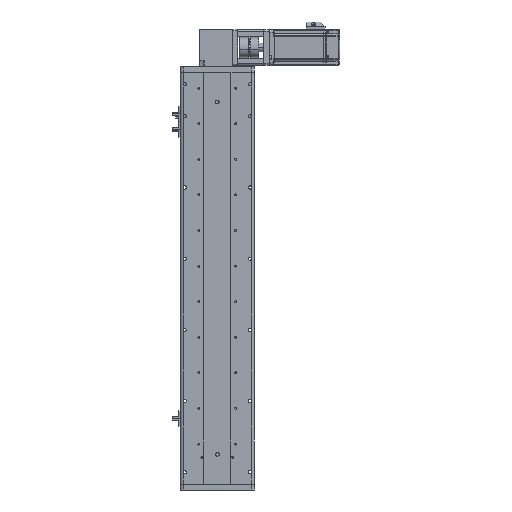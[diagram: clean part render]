
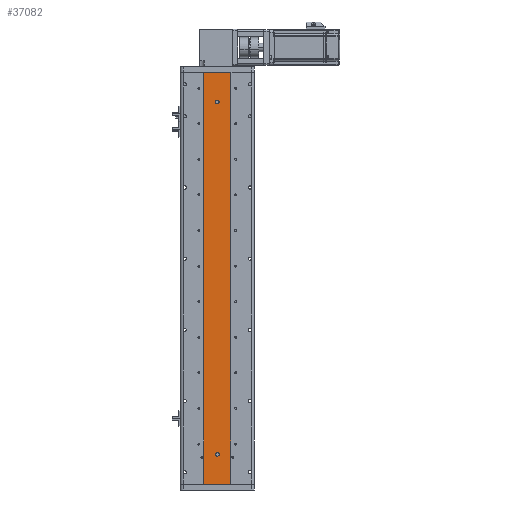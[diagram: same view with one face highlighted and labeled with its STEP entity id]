
A CAD part, front view. The second image highlights one B-rep face of the part: STEP entity #37082.
In plain terms, the highlighted planar face has unit normal (0, -1, 0).
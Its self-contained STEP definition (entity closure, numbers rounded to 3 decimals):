
#694 = EDGE_LOOP ( 'NONE', ( #44101, #1448 ) ) ;
#1252 = DIRECTION ( 'NONE',  ( 0., 0., -1. ) ) ;
#1448 = ORIENTED_EDGE ( 'NONE', *, *, #59124, .F. ) ;
#2985 = DIRECTION ( 'NONE',  ( 0., 0., -1. ) ) ;
#3689 = EDGE_CURVE ( 'NONE', #32554, #52315, #51144, .T. ) ;
#3798 = DIRECTION ( 'NONE',  ( 0., 0., -1. ) ) ;
#5442 = EDGE_CURVE ( 'NONE', #20981, #9991, #10733, .T. ) ;
#5601 = CIRCLE ( 'NONE', #48080, 3. ) ;
#5636 = CARTESIAN_POINT ( 'NONE',  ( 23., 1., -347. ) ) ;
#6363 = CIRCLE ( 'NONE', #52671, 3. ) ;
#6595 = DIRECTION ( 'NONE',  ( 1., 0., 0. ) ) ;
#8202 = ORIENTED_EDGE ( 'NONE', *, *, #34191, .F. ) ;
#8335 = CARTESIAN_POINT ( 'NONE',  ( 0., 1., 294. ) ) ;
#8986 = ORIENTED_EDGE ( 'NONE', *, *, #31094, .T. ) ;
#9991 = VERTEX_POINT ( 'NONE', #5636 ) ;
#10733 = LINE ( 'NONE', #55951, #46338 ) ;
#11061 = CARTESIAN_POINT ( 'NONE',  ( -23., 1., 347. ) ) ;
#11661 = CIRCLE ( 'NONE', #49190, 3. ) ;
#12085 = DIRECTION ( 'NONE',  ( 0., -1., 0. ) ) ;
#15346 = ORIENTED_EDGE ( 'NONE', *, *, #19593, .F. ) ;
#15576 = VECTOR ( 'NONE', #1252, 1000. ) ;
#15984 = CARTESIAN_POINT ( 'NONE',  ( 23., 1., -347. ) ) ;
#16329 = VERTEX_POINT ( 'NONE', #30361 ) ;
#16677 = CARTESIAN_POINT ( 'NONE',  ( 23., 1., 347.001 ) ) ;
#18518 = FACE_BOUND ( 'NONE', #56697, .T. ) ;
#19329 = CARTESIAN_POINT ( 'NONE',  ( 0., 1., 297. ) ) ;
#19593 = EDGE_CURVE ( 'NONE', #47584, #44645, #6363, .T. ) ;
#20981 = VERTEX_POINT ( 'NONE', #53626 ) ;
#21351 = PLANE ( 'NONE',  #40599 ) ;
#22873 = FACE_OUTER_BOUND ( 'NONE', #49467, .T. ) ;
#22931 = AXIS2_PLACEMENT_3D ( 'NONE', #19329, #51784, #24009 ) ;
#23420 = CARTESIAN_POINT ( 'NONE',  ( 0., 1., -300. ) ) ;
#24009 = DIRECTION ( 'NONE',  ( 0., 0., -1. ) ) ;
#26040 = EDGE_CURVE ( 'NONE', #30125, #16329, #11661, .T. ) ;
#28148 = DIRECTION ( 'NONE',  ( 0., 0., -1. ) ) ;
#29160 = CARTESIAN_POINT ( 'NONE',  ( -23., 1., 347.001 ) ) ;
#29893 = CIRCLE ( 'NONE', #22931, 3. ) ;
#30125 = VERTEX_POINT ( 'NONE', #8335 ) ;
#30361 = CARTESIAN_POINT ( 'NONE',  ( 0., 1., 300. ) ) ;
#30837 = DIRECTION ( 'NONE',  ( 0., -1., 0. ) ) ;
#31094 = EDGE_CURVE ( 'NONE', #52315, #9991, #45207, .T. ) ;
#31410 = VECTOR ( 'NONE', #34614, 1000. ) ;
#31664 = DIRECTION ( 'NONE',  ( 0., -1., 0. ) ) ;
#32554 = VERTEX_POINT ( 'NONE', #11061 ) ;
#34191 = EDGE_CURVE ( 'NONE', #32554, #20981, #37112, .T. ) ;
#34411 = CARTESIAN_POINT ( 'NONE',  ( 23., 1., 347. ) ) ;
#34614 = DIRECTION ( 'NONE',  ( 1., 0., 0. ) ) ;
#35095 = DIRECTION ( 'NONE',  ( 0., 1., 0. ) ) ;
#37082 = ADVANCED_FACE ( 'NONE', ( #55535, #18518, #22873 ), #21351, .F. ) ;
#37112 = LINE ( 'NONE', #34411, #47992 ) ;
#39871 = CARTESIAN_POINT ( 'NONE',  ( 0., 1., -297. ) ) ;
#40599 = AXIS2_PLACEMENT_3D ( 'NONE', #16677, #35095, #53808 ) ;
#44101 = ORIENTED_EDGE ( 'NONE', *, *, #26040, .F. ) ;
#44539 = DIRECTION ( 'NONE',  ( 0., 0., -1. ) ) ;
#44645 = VERTEX_POINT ( 'NONE', #48059 ) ;
#45207 = LINE ( 'NONE', #15984, #31410 ) ;
#46338 = VECTOR ( 'NONE', #28148, 1000. ) ;
#47584 = VERTEX_POINT ( 'NONE', #23420 ) ;
#47992 = VECTOR ( 'NONE', #6595, 1000. ) ;
#48059 = CARTESIAN_POINT ( 'NONE',  ( 0., 1., -294. ) ) ;
#48080 = AXIS2_PLACEMENT_3D ( 'NONE', #39871, #12085, #44539 ) ;
#49190 = AXIS2_PLACEMENT_3D ( 'NONE', #58607, #30837, #2985 ) ;
#49467 = EDGE_LOOP ( 'NONE', ( #55313, #8986, #51812, #8202 ) ) ;
#49939 = ORIENTED_EDGE ( 'NONE', *, *, #51875, .F. ) ;
#51144 = LINE ( 'NONE', #29160, #15576 ) ;
#51784 = DIRECTION ( 'NONE',  ( 0., -1., 0. ) ) ;
#51812 = ORIENTED_EDGE ( 'NONE', *, *, #5442, .F. ) ;
#51875 = EDGE_CURVE ( 'NONE', #44645, #47584, #5601, .T. ) ;
#52315 = VERTEX_POINT ( 'NONE', #54399 ) ;
#52671 = AXIS2_PLACEMENT_3D ( 'NONE', #59454, #31664, #3798 ) ;
#53626 = CARTESIAN_POINT ( 'NONE',  ( 23., 1., 347. ) ) ;
#53808 = DIRECTION ( 'NONE',  ( 0., 0., 1. ) ) ;
#54399 = CARTESIAN_POINT ( 'NONE',  ( -23., 1., -347. ) ) ;
#55313 = ORIENTED_EDGE ( 'NONE', *, *, #3689, .T. ) ;
#55535 = FACE_BOUND ( 'NONE', #694, .T. ) ;
#55951 = CARTESIAN_POINT ( 'NONE',  ( 23., 1., 347.001 ) ) ;
#56697 = EDGE_LOOP ( 'NONE', ( #15346, #49939 ) ) ;
#58607 = CARTESIAN_POINT ( 'NONE',  ( 0., 1., 297. ) ) ;
#59124 = EDGE_CURVE ( 'NONE', #16329, #30125, #29893, .T. ) ;
#59454 = CARTESIAN_POINT ( 'NONE',  ( 0., 1., -297. ) ) ;
